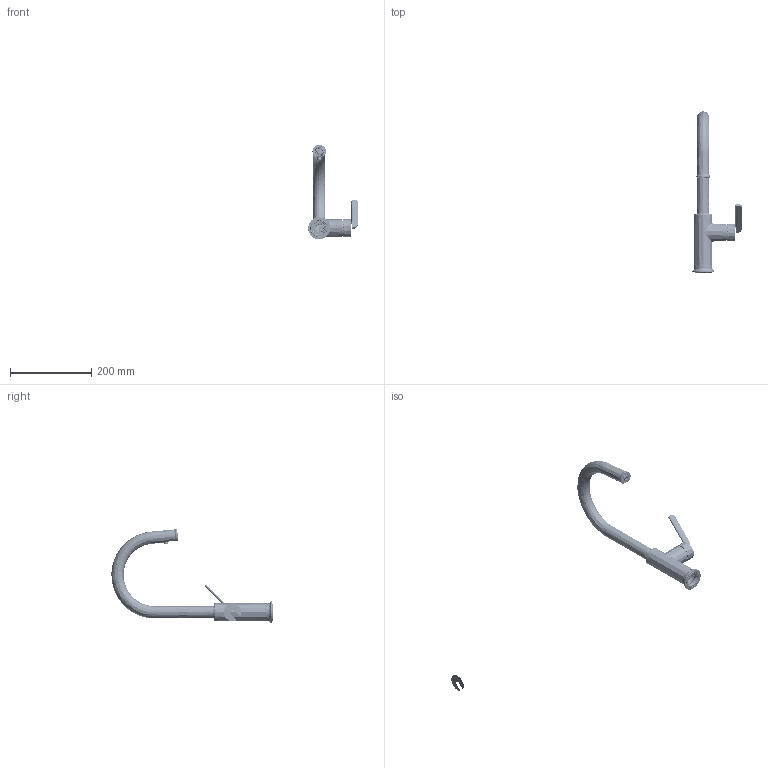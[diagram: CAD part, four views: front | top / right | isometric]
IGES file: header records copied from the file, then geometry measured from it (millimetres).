
Start section: SolidWorks IGES file using analytic representation for surfaces
Global section: file name: C:\Users\ccai\Desktop\CeliaC\Projects\0731-ADHOC-02292 Netural Files\000sku_AU80SERIES_\sku_au101series_igs.IGS; native system: SolidWorks 2023; preprocessor: SolidWorks 2023; author: ccai; date: 240724.164849; units: inch
Bounding box: 815.38 x 395.94 x 232.39 mm (x, y, z)
Surface area: 234036.5 mm2 (no closed solid volume)
Topology: 0 solids, 0 shells, 4000 faces, 45355 edges, 45275 vertices
Faces by surface type: bspline 2245, revolution 1755
